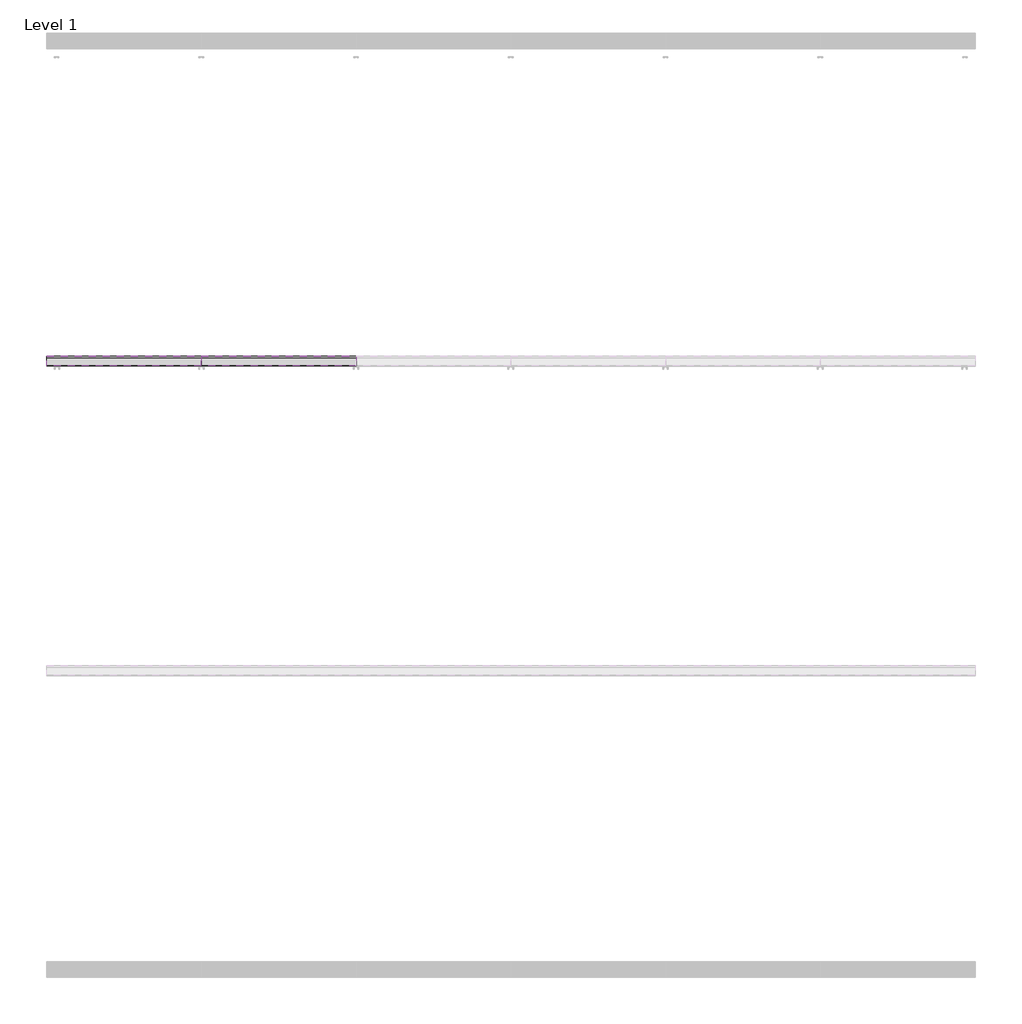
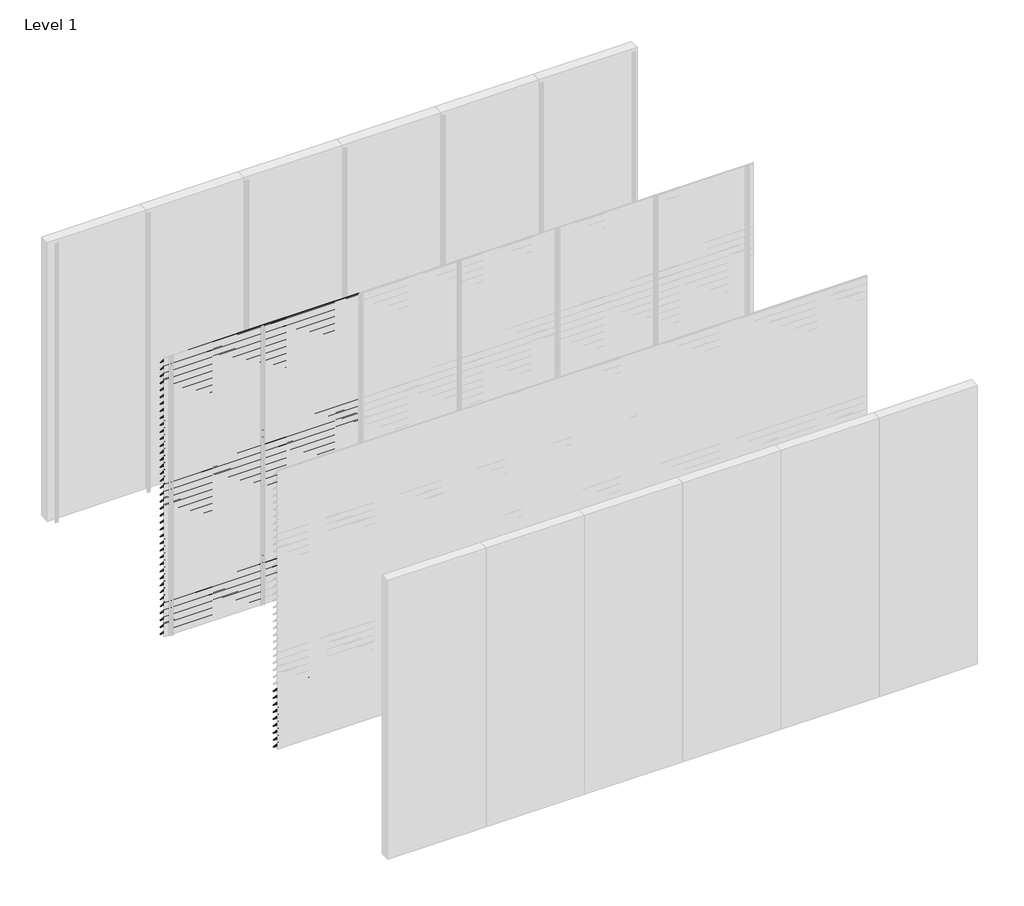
# One storey, part 30 of 35: 86 proxies.
"""IFC4 building model written with IfcOpenShell, lengths in millimetres."""

from ifc_helpers import new_model, si_unit, frame, origin, place, context, project, spatial, polyline, outline, extrude, element, save

model = new_model("IFC4")

# Units and contexts
model_context = context("Model", 3, world=origin())
ifc_project = project(units=[si_unit("LENGTHUNIT", "METRE", prefix="MILLI")], contexts=[model_context])

# Site, building, storey
site = spatial("IfcSite", under=ifc_project)
building = spatial("IfcBuilding", under=site)
storey = spatial("IfcBuildingStorey", under=building, Name="Level 1", Elevation=0.0)

# Proxies
placement = place(None, origin())
element("IfcBuildingElementProxy", 1, Name="Wall Sweeps", at=placement, inside=storey, context=model_context, shape_type="SweptSolid", body=[
    extrude(outline(polyline([(-5996.5, 3000.0), (-5996.5, 2985.5463701), (-5934.5, 2913.9330051), (-5934.5, 2910.4), (-5936.0, 2910.4), (-5936.0, 2913.3738975), (-5998.0, 2984.9872626), (-5998.0, 3000.0), (-5996.5, 3000.0)])), frame((0.0, 0.0, 0.0), z_axis=(1.0, 0.0, 0.0), x_axis=(0.0, 1.0, 0.0)), (0.0, 0.0, 1.0), 1000.0),
])
element("IfcBuildingElementProxy", 2, Name="Wall Sweeps", at=placement, inside=storey, context=model_context, shape_type="SweptSolid", body=[
    extrude(outline(polyline([(-5996.5, 2925.0), (-5996.5, 2910.5463701), (-5934.5, 2838.9330051), (-5934.5, 2835.4), (-5936.0, 2835.4), (-5936.0, 2838.3738975), (-5998.0, 2909.9872626), (-5998.0, 2925.0), (-5996.5, 2925.0)])), frame((0.0, 0.0, 0.0), z_axis=(1.0, 0.0, 0.0), x_axis=(0.0, 1.0, 0.0)), (0.0, 0.0, 1.0), 1000.0),
])
element("IfcBuildingElementProxy", 3, Name="Wall Sweeps", at=placement, inside=storey, context=model_context, shape_type="SweptSolid", body=[
    extrude(outline(polyline([(-5996.5, 2850.0), (-5996.5, 2835.5463701), (-5934.5, 2763.9330051), (-5934.5, 2760.4), (-5936.0, 2760.4), (-5936.0, 2763.3738975), (-5998.0, 2834.9872626), (-5998.0, 2850.0), (-5996.5, 2850.0)])), frame((0.0, 0.0, 0.0), z_axis=(1.0, 0.0, 0.0), x_axis=(0.0, 1.0, 0.0)), (0.0, 0.0, 1.0), 1000.0),
])
element("IfcBuildingElementProxy", 4, Name="Wall Sweeps", at=placement, inside=storey, context=model_context, shape_type="SweptSolid", body=[
    extrude(outline(polyline([(-5996.5, 2775.0), (-5996.5, 2760.5463701), (-5934.5, 2688.9330051), (-5934.5, 2685.4), (-5936.0, 2685.4), (-5936.0, 2688.3738975), (-5998.0, 2759.9872626), (-5998.0, 2775.0), (-5996.5, 2775.0)])), frame((0.0, 0.0, 0.0), z_axis=(1.0, 0.0, 0.0), x_axis=(0.0, 1.0, 0.0)), (0.0, 0.0, 1.0), 1000.0),
])
element("IfcBuildingElementProxy", 5, Name="Wall Sweeps", at=placement, inside=storey, context=model_context, shape_type="SweptSolid", body=[
    extrude(outline(polyline([(-5996.5, 2700.0), (-5996.5, 2685.5463701), (-5934.5, 2613.9330051), (-5934.5, 2610.4), (-5936.0, 2610.4), (-5936.0, 2613.3738975), (-5998.0, 2684.9872626), (-5998.0, 2700.0), (-5996.5, 2700.0)])), frame((0.0, 0.0, 0.0), z_axis=(1.0, 0.0, 0.0), x_axis=(0.0, 1.0, 0.0)), (0.0, 0.0, 1.0), 1000.0),
])
element("IfcBuildingElementProxy", 6, Name="Wall Sweeps", at=placement, inside=storey, context=model_context, shape_type="SweptSolid", body=[
    extrude(outline(polyline([(-5996.5, 2625.0), (-5996.5, 2610.5463701), (-5934.5, 2538.9330051), (-5934.5, 2535.4), (-5936.0, 2535.4), (-5936.0, 2538.3738975), (-5998.0, 2609.9872626), (-5998.0, 2625.0), (-5996.5, 2625.0)])), frame((0.0, 0.0, 0.0), z_axis=(1.0, 0.0, 0.0), x_axis=(0.0, 1.0, 0.0)), (0.0, 0.0, 1.0), 1000.0),
])
element("IfcBuildingElementProxy", 7, Name="Wall Sweeps", at=placement, inside=storey, context=model_context, shape_type="SweptSolid", body=[
    extrude(outline(polyline([(-5996.5, 2550.0), (-5996.5, 2535.5463701), (-5934.5, 2463.9330051), (-5934.5, 2460.4), (-5936.0, 2460.4), (-5936.0, 2463.3738975), (-5998.0, 2534.9872626), (-5998.0, 2550.0), (-5996.5, 2550.0)])), frame((0.0, 0.0, 0.0), z_axis=(1.0, 0.0, 0.0), x_axis=(0.0, 1.0, 0.0)), (0.0, 0.0, 1.0), 1000.0),
])
element("IfcBuildingElementProxy", 8, Name="Wall Sweeps", at=placement, inside=storey, context=model_context, shape_type="SweptSolid", body=[
    extrude(outline(polyline([(-5996.5, 2475.0), (-5996.5, 2460.5463701), (-5934.5, 2388.9330051), (-5934.5, 2385.4), (-5936.0, 2385.4), (-5936.0, 2388.3738975), (-5998.0, 2459.9872626), (-5998.0, 2475.0), (-5996.5, 2475.0)])), frame((0.0, 0.0, 0.0), z_axis=(1.0, 0.0, 0.0), x_axis=(0.0, 1.0, 0.0)), (0.0, 0.0, 1.0), 1000.0),
])
element("IfcBuildingElementProxy", 9, Name="Wall Sweeps", at=placement, inside=storey, context=model_context, shape_type="SweptSolid", body=[
    extrude(outline(polyline([(-5996.5, 2400.0), (-5996.5, 2385.5463701), (-5934.5, 2313.9330051), (-5934.5, 2310.4), (-5936.0, 2310.4), (-5936.0, 2313.3738975), (-5998.0, 2384.9872626), (-5998.0, 2400.0), (-5996.5, 2400.0)])), frame((0.0, 0.0, 0.0), z_axis=(1.0, 0.0, 0.0), x_axis=(0.0, 1.0, 0.0)), (0.0, 0.0, 1.0), 1000.0),
])
element("IfcBuildingElementProxy", 10, Name="Wall Sweeps", at=placement, inside=storey, context=model_context, shape_type="SweptSolid", body=[
    extrude(outline(polyline([(-5996.5, 2325.0), (-5996.5, 2310.5463701), (-5934.5, 2238.9330051), (-5934.5, 2235.4), (-5936.0, 2235.4), (-5936.0, 2238.3738975), (-5998.0, 2309.9872626), (-5998.0, 2325.0), (-5996.5, 2325.0)])), frame((0.0, 0.0, 0.0), z_axis=(1.0, 0.0, 0.0), x_axis=(0.0, 1.0, 0.0)), (0.0, 0.0, 1.0), 1000.0),
])
element("IfcBuildingElementProxy", 11, Name="Wall Sweeps", at=placement, inside=storey, context=model_context, shape_type="SweptSolid", body=[
    extrude(outline(polyline([(-5996.5, 2250.0), (-5996.5, 2235.5463701), (-5934.5, 2163.9330051), (-5934.5, 2160.4), (-5936.0, 2160.4), (-5936.0, 2163.3738975), (-5998.0, 2234.9872626), (-5998.0, 2250.0), (-5996.5, 2250.0)])), frame((0.0, 0.0, 0.0), z_axis=(1.0, 0.0, 0.0), x_axis=(0.0, 1.0, 0.0)), (0.0, 0.0, 1.0), 1000.0),
])
element("IfcBuildingElementProxy", 12, Name="Wall Sweeps", at=placement, inside=storey, context=model_context, shape_type="SweptSolid", body=[
    extrude(outline(polyline([(-5996.5, 2175.0), (-5996.5, 2160.5463701), (-5934.5, 2088.9330051), (-5934.5, 2085.4), (-5936.0, 2085.4), (-5936.0, 2088.3738975), (-5998.0, 2159.9872626), (-5998.0, 2175.0), (-5996.5, 2175.0)])), frame((0.0, 0.0, 0.0), z_axis=(1.0, 0.0, 0.0), x_axis=(0.0, 1.0, 0.0)), (0.0, 0.0, 1.0), 1000.0),
])
element("IfcBuildingElementProxy", 13, Name="Wall Sweeps", at=placement, inside=storey, context=model_context, shape_type="SweptSolid", body=[
    extrude(outline(polyline([(-5996.5, 2100.0), (-5996.5, 2085.5463701), (-5934.5, 2013.9330051), (-5934.5, 2010.4), (-5936.0, 2010.4), (-5936.0, 2013.3738975), (-5998.0, 2084.9872626), (-5998.0, 2100.0), (-5996.5, 2100.0)])), frame((0.0, 0.0, 0.0), z_axis=(1.0, 0.0, 0.0), x_axis=(0.0, 1.0, 0.0)), (0.0, 0.0, 1.0), 1000.0),
])
element("IfcBuildingElementProxy", 14, Name="Wall Sweeps", at=placement, inside=storey, context=model_context, shape_type="SweptSolid", body=[
    extrude(outline(polyline([(-5996.5, 2025.0), (-5996.5, 2010.5463701), (-5934.5, 1938.9330051), (-5934.5, 1935.4), (-5936.0, 1935.4), (-5936.0, 1938.3738975), (-5998.0, 2009.9872626), (-5998.0, 2025.0), (-5996.5, 2025.0)])), frame((0.0, 0.0, 0.0), z_axis=(1.0, 0.0, 0.0), x_axis=(0.0, 1.0, 0.0)), (0.0, 0.0, 1.0), 1000.0),
])
element("IfcBuildingElementProxy", 15, Name="Wall Sweeps", at=placement, inside=storey, context=model_context, shape_type="SweptSolid", body=[
    extrude(outline(polyline([(-5996.5, 1950.0), (-5996.5, 1935.5463701), (-5934.5, 1863.9330051), (-5934.5, 1860.4), (-5936.0, 1860.4), (-5936.0, 1863.3738975), (-5998.0, 1934.9872626), (-5998.0, 1950.0), (-5996.5, 1950.0)])), frame((0.0, 0.0, 0.0), z_axis=(1.0, 0.0, 0.0), x_axis=(0.0, 1.0, 0.0)), (0.0, 0.0, 1.0), 1000.0),
])
element("IfcBuildingElementProxy", 16, Name="Wall Sweeps", at=placement, inside=storey, context=model_context, shape_type="SweptSolid", body=[
    extrude(outline(polyline([(-5996.5, 1875.0), (-5996.5, 1860.5463701), (-5934.5, 1788.9330051), (-5934.5, 1785.4), (-5936.0, 1785.4), (-5936.0, 1788.3738975), (-5998.0, 1859.9872626), (-5998.0, 1875.0), (-5996.5, 1875.0)])), frame((0.0, 0.0, 0.0), z_axis=(1.0, 0.0, 0.0), x_axis=(0.0, 1.0, 0.0)), (0.0, 0.0, 1.0), 1000.0),
])
element("IfcBuildingElementProxy", 17, Name="Wall Sweeps", at=placement, inside=storey, context=model_context, shape_type="SweptSolid", body=[
    extrude(outline(polyline([(-5996.5, 1800.0), (-5996.5, 1785.5463701), (-5934.5, 1713.9330051), (-5934.5, 1710.4), (-5936.0, 1710.4), (-5936.0, 1713.3738975), (-5998.0, 1784.9872626), (-5998.0, 1800.0), (-5996.5, 1800.0)])), frame((0.0, 0.0, 0.0), z_axis=(1.0, 0.0, 0.0), x_axis=(0.0, 1.0, 0.0)), (0.0, 0.0, 1.0), 1000.0),
])
element("IfcBuildingElementProxy", 18, Name="Wall Sweeps", at=placement, inside=storey, context=model_context, shape_type="SweptSolid", body=[
    extrude(outline(polyline([(-5996.5, 1725.0), (-5996.5, 1710.5463701), (-5934.5, 1638.9330051), (-5934.5, 1635.4), (-5936.0, 1635.4), (-5936.0, 1638.3738975), (-5998.0, 1709.9872626), (-5998.0, 1725.0), (-5996.5, 1725.0)])), frame((0.0, 0.0, 0.0), z_axis=(1.0, 0.0, 0.0), x_axis=(0.0, 1.0, 0.0)), (0.0, 0.0, 1.0), 1000.0),
])
element("IfcBuildingElementProxy", 19, Name="Wall Sweeps", at=placement, inside=storey, context=model_context, shape_type="SweptSolid", body=[
    extrude(outline(polyline([(-5996.5, 1650.0), (-5996.5, 1635.5463701), (-5934.5, 1563.9330051), (-5934.5, 1560.4), (-5936.0, 1560.4), (-5936.0, 1563.3738975), (-5998.0, 1634.9872626), (-5998.0, 1650.0), (-5996.5, 1650.0)])), frame((0.0, 0.0, 0.0), z_axis=(1.0, 0.0, 0.0), x_axis=(0.0, 1.0, 0.0)), (0.0, 0.0, 1.0), 1000.0),
])
element("IfcBuildingElementProxy", 20, Name="Wall Sweeps", at=placement, inside=storey, context=model_context, shape_type="SweptSolid", body=[
    extrude(outline(polyline([(-5996.5, 1575.0), (-5996.5, 1560.5463701), (-5934.5, 1488.9330051), (-5934.5, 1485.4), (-5936.0, 1485.4), (-5936.0, 1488.3738975), (-5998.0, 1559.9872626), (-5998.0, 1575.0), (-5996.5, 1575.0)])), frame((0.0, 0.0, 0.0), z_axis=(1.0, 0.0, 0.0), x_axis=(0.0, 1.0, 0.0)), (0.0, 0.0, 1.0), 1000.0),
])
element("IfcBuildingElementProxy", 21, Name="Wall Sweeps", at=placement, inside=storey, context=model_context, shape_type="SweptSolid", body=[
    extrude(outline(polyline([(-5996.5, 1500.0), (-5996.5, 1485.5463701), (-5934.5, 1413.9330051), (-5934.5, 1410.4), (-5936.0, 1410.4), (-5936.0, 1413.3738975), (-5998.0, 1484.9872626), (-5998.0, 1500.0), (-5996.5, 1500.0)])), frame((0.0, 0.0, 0.0), z_axis=(1.0, 0.0, 0.0), x_axis=(0.0, 1.0, 0.0)), (0.0, 0.0, 1.0), 1000.0),
])
element("IfcBuildingElementProxy", 22, Name="Wall Sweeps", at=placement, inside=storey, context=model_context, shape_type="SweptSolid", body=[
    extrude(outline(polyline([(-5996.5, 1425.0), (-5996.5, 1410.5463701), (-5934.5, 1338.9330051), (-5934.5, 1335.4), (-5936.0, 1335.4), (-5936.0, 1338.3738975), (-5998.0, 1409.9872626), (-5998.0, 1425.0), (-5996.5, 1425.0)])), frame((0.0, 0.0, 0.0), z_axis=(1.0, 0.0, 0.0), x_axis=(0.0, 1.0, 0.0)), (0.0, 0.0, 1.0), 1000.0),
])
element("IfcBuildingElementProxy", 23, Name="Wall Sweeps", at=placement, inside=storey, context=model_context, shape_type="SweptSolid", body=[
    extrude(outline(polyline([(-5996.5, 1350.0), (-5996.5, 1335.5463701), (-5934.5, 1263.9330051), (-5934.5, 1260.4), (-5936.0, 1260.4), (-5936.0, 1263.3738975), (-5998.0, 1334.9872626), (-5998.0, 1350.0), (-5996.5, 1350.0)])), frame((0.0, 0.0, 0.0), z_axis=(1.0, 0.0, 0.0), x_axis=(0.0, 1.0, 0.0)), (0.0, 0.0, 1.0), 1000.0),
])
element("IfcBuildingElementProxy", 24, Name="Wall Sweeps", at=placement, inside=storey, context=model_context, shape_type="SweptSolid", body=[
    extrude(outline(polyline([(-5996.5, 1275.0), (-5996.5, 1260.5463701), (-5934.5, 1188.9330051), (-5934.5, 1185.4), (-5936.0, 1185.4), (-5936.0, 1188.3738975), (-5998.0, 1259.9872626), (-5998.0, 1275.0), (-5996.5, 1275.0)])), frame((0.0, 0.0, 0.0), z_axis=(1.0, 0.0, 0.0), x_axis=(0.0, 1.0, 0.0)), (0.0, 0.0, 1.0), 1000.0),
])
element("IfcBuildingElementProxy", 25, Name="Wall Sweeps", at=placement, inside=storey, context=model_context, shape_type="SweptSolid", body=[
    extrude(outline(polyline([(-5996.5, 1200.0), (-5996.5, 1185.5463701), (-5934.5, 1113.9330051), (-5934.5, 1110.4), (-5936.0, 1110.4), (-5936.0, 1113.3738975), (-5998.0, 1184.9872626), (-5998.0, 1200.0), (-5996.5, 1200.0)])), frame((0.0, 0.0, 0.0), z_axis=(1.0, 0.0, 0.0), x_axis=(0.0, 1.0, 0.0)), (0.0, 0.0, 1.0), 1000.0),
])
element("IfcBuildingElementProxy", 26, Name="Wall Sweeps", at=placement, inside=storey, context=model_context, shape_type="SweptSolid", body=[
    extrude(outline(polyline([(-5996.5, 1125.0), (-5996.5, 1110.5463701), (-5934.5, 1038.9330051), (-5934.5, 1035.4), (-5936.0, 1035.4), (-5936.0, 1038.3738975), (-5998.0, 1109.9872626), (-5998.0, 1125.0), (-5996.5, 1125.0)])), frame((0.0, 0.0, 0.0), z_axis=(1.0, 0.0, 0.0), x_axis=(0.0, 1.0, 0.0)), (0.0, 0.0, 1.0), 1000.0),
])
element("IfcBuildingElementProxy", 27, Name="Wall Sweeps", at=placement, inside=storey, context=model_context, shape_type="SweptSolid", body=[
    extrude(outline(polyline([(-5996.5, 1050.0), (-5996.5, 1035.5463701), (-5934.5, 963.9330051), (-5934.5, 960.4), (-5936.0, 960.4), (-5936.0, 963.3738975), (-5998.0, 1034.9872626), (-5998.0, 1050.0), (-5996.5, 1050.0)])), frame((0.0, 0.0, 0.0), z_axis=(1.0, 0.0, 0.0), x_axis=(0.0, 1.0, 0.0)), (0.0, 0.0, 1.0), 1000.0),
])
element("IfcBuildingElementProxy", 28, Name="Wall Sweeps", at=placement, inside=storey, context=model_context, shape_type="SweptSolid", body=[
    extrude(outline(polyline([(-5996.5, 975.0), (-5996.5, 960.5463701), (-5934.5, 888.9330051), (-5934.5, 885.4), (-5936.0, 885.4), (-5936.0, 888.3738975), (-5998.0, 959.9872626), (-5998.0, 975.0), (-5996.5, 975.0)])), frame((0.0, 0.0, 0.0), z_axis=(1.0, 0.0, 0.0), x_axis=(0.0, 1.0, 0.0)), (0.0, 0.0, 1.0), 1000.0),
])
element("IfcBuildingElementProxy", 29, Name="Wall Sweeps", at=placement, inside=storey, context=model_context, shape_type="SweptSolid", body=[
    extrude(outline(polyline([(-5996.5, 900.0), (-5996.5, 885.5463701), (-5934.5, 813.9330051), (-5934.5, 810.4), (-5936.0, 810.4), (-5936.0, 813.3738975), (-5998.0, 884.9872626), (-5998.0, 900.0), (-5996.5, 900.0)])), frame((0.0, 0.0, 0.0), z_axis=(1.0, 0.0, 0.0), x_axis=(0.0, 1.0, 0.0)), (0.0, 0.0, 1.0), 1000.0),
])
element("IfcBuildingElementProxy", 30, Name="Wall Sweeps", at=placement, inside=storey, context=model_context, shape_type="SweptSolid", body=[
    extrude(outline(polyline([(-5996.5, 825.0), (-5996.5, 810.5463701), (-5934.5, 738.9330051), (-5934.5, 735.4), (-5936.0, 735.4), (-5936.0, 738.3738975), (-5998.0, 809.9872626), (-5998.0, 825.0), (-5996.5, 825.0)])), frame((0.0, 0.0, 0.0), z_axis=(1.0, 0.0, 0.0), x_axis=(0.0, 1.0, 0.0)), (0.0, 0.0, 1.0), 1000.0),
])
element("IfcBuildingElementProxy", 31, Name="Wall Sweeps", at=placement, inside=storey, context=model_context, shape_type="SweptSolid", body=[
    extrude(outline(polyline([(-5996.5, 750.0), (-5996.5, 735.5463701), (-5934.5, 663.9330051), (-5934.5, 660.4), (-5936.0, 660.4), (-5936.0, 663.3738975), (-5998.0, 734.9872626), (-5998.0, 750.0), (-5996.5, 750.0)])), frame((0.0, 0.0, 0.0), z_axis=(1.0, 0.0, 0.0), x_axis=(0.0, 1.0, 0.0)), (0.0, 0.0, 1.0), 1000.0),
])
element("IfcBuildingElementProxy", 32, Name="Wall Sweeps", at=placement, inside=storey, context=model_context, shape_type="SweptSolid", body=[
    extrude(outline(polyline([(-5996.5, 675.0), (-5996.5, 660.5463701), (-5934.5, 588.9330051), (-5934.5, 585.4), (-5936.0, 585.4), (-5936.0, 588.3738975), (-5998.0, 659.9872626), (-5998.0, 675.0), (-5996.5, 675.0)])), frame((0.0, 0.0, 0.0), z_axis=(1.0, 0.0, 0.0), x_axis=(0.0, 1.0, 0.0)), (0.0, 0.0, 1.0), 1000.0),
])
element("IfcBuildingElementProxy", 33, Name="Wall Sweeps", at=placement, inside=storey, context=model_context, shape_type="SweptSolid", body=[
    extrude(outline(polyline([(-5996.5, 600.0), (-5996.5, 585.5463701), (-5934.5, 513.9330051), (-5934.5, 510.4), (-5936.0, 510.4), (-5936.0, 513.3738975), (-5998.0, 584.9872626), (-5998.0, 600.0), (-5996.5, 600.0)])), frame((0.0, 0.0, 0.0), z_axis=(1.0, 0.0, 0.0), x_axis=(0.0, 1.0, 0.0)), (0.0, 0.0, 1.0), 1000.0),
])
element("IfcBuildingElementProxy", 34, Name="Wall Sweeps", at=placement, inside=storey, context=model_context, shape_type="SweptSolid", body=[
    extrude(outline(polyline([(-5996.5, 525.0), (-5996.5, 510.5463701), (-5934.5, 438.9330051), (-5934.5, 435.4), (-5936.0, 435.4), (-5936.0, 438.3738975), (-5998.0, 509.9872626), (-5998.0, 525.0), (-5996.5, 525.0)])), frame((0.0, 0.0, 0.0), z_axis=(1.0, 0.0, 0.0), x_axis=(0.0, 1.0, 0.0)), (0.0, 0.0, 1.0), 1000.0),
])
element("IfcBuildingElementProxy", 35, Name="Wall Sweeps", at=placement, inside=storey, context=model_context, shape_type="SweptSolid", body=[
    extrude(outline(polyline([(-5996.5, 450.0), (-5996.5, 435.5463701), (-5934.5, 363.9330051), (-5934.5, 360.4), (-5936.0, 360.4), (-5936.0, 363.3738975), (-5998.0, 434.9872626), (-5998.0, 450.0), (-5996.5, 450.0)])), frame((0.0, 0.0, 0.0), z_axis=(1.0, 0.0, 0.0), x_axis=(0.0, 1.0, 0.0)), (0.0, 0.0, 1.0), 1000.0),
])
element("IfcBuildingElementProxy", 36, Name="Wall Sweeps", at=placement, inside=storey, context=model_context, shape_type="SweptSolid", body=[
    extrude(outline(polyline([(-5996.5, 375.0), (-5996.5, 360.5463701), (-5934.5, 288.9330051), (-5934.5, 285.4), (-5936.0, 285.4), (-5936.0, 288.3738975), (-5998.0, 359.9872626), (-5998.0, 375.0), (-5996.5, 375.0)])), frame((0.0, 0.0, 0.0), z_axis=(1.0, 0.0, 0.0), x_axis=(0.0, 1.0, 0.0)), (0.0, 0.0, 1.0), 1000.0),
])
element("IfcBuildingElementProxy", 37, Name="Wall Sweeps", at=placement, inside=storey, context=model_context, shape_type="SweptSolid", body=[
    extrude(outline(polyline([(-5996.5, 300.0), (-5996.5, 285.5463701), (-5934.5, 213.9330051), (-5934.5, 210.4), (-5936.0, 210.4), (-5936.0, 213.3738975), (-5998.0, 284.9872626), (-5998.0, 300.0), (-5996.5, 300.0)])), frame((0.0, 0.0, 0.0), z_axis=(1.0, 0.0, 0.0), x_axis=(0.0, 1.0, 0.0)), (0.0, 0.0, 1.0), 1000.0),
])
element("IfcBuildingElementProxy", 38, Name="Wall Sweeps", at=placement, inside=storey, context=model_context, shape_type="SweptSolid", body=[
    extrude(outline(polyline([(-5996.5, 225.0), (-5996.5, 210.5463701), (-5934.5, 138.9330051), (-5934.5, 135.4), (-5936.0, 135.4), (-5936.0, 138.3738975), (-5998.0, 209.9872626), (-5998.0, 225.0), (-5996.5, 225.0)])), frame((0.0, 0.0, 0.0), z_axis=(1.0, 0.0, 0.0), x_axis=(0.0, 1.0, 0.0)), (0.0, 0.0, 1.0), 1000.0),
])
element("IfcBuildingElementProxy", 39, Name="Wall Sweeps", at=placement, inside=storey, context=model_context, shape_type="SweptSolid", body=[
    extrude(outline(polyline([(-5996.5, 150.0), (-5996.5, 135.5463701), (-5934.5, 63.9330051), (-5934.5, 60.4), (-5936.0, 60.4), (-5936.0, 63.3738975), (-5998.0, 134.9872626), (-5998.0, 150.0), (-5996.5, 150.0)])), frame((0.0, 0.0, 0.0), z_axis=(1.0, 0.0, 0.0), x_axis=(0.0, 1.0, 0.0)), (0.0, 0.0, 1.0), 1000.0),
])
element("IfcBuildingElementProxy", 40, Name="Wall Sweeps", at=placement, inside=storey, context=model_context, shape_type="SweptSolid", body=[
    extrude(outline(polyline([(-5996.5, 75.0), (-5996.5, 60.5463701), (-5934.5, -11.0669949), (-5934.5, -14.6), (-5936.0, -14.6), (-5936.0, -11.6261025), (-5998.0, 59.9872626), (-5998.0, 75.0), (-5996.5, 75.0)])), frame((0.0, 0.0, 0.0), z_axis=(1.0, 0.0, 0.0), x_axis=(0.0, 1.0, 0.0)), (0.0, 0.0, 1.0), 1000.0),
])
element("IfcBuildingElementProxy", 41, Name="Wall Sweeps", at=placement, inside=storey, context=model_context, shape_type="SweptSolid", body=[
    extrude(outline(polyline([(-5996.5, 3000.0), (-5996.5, 2985.5463701), (-5934.5, 2913.9330051), (-5934.5, 2910.4), (-5936.0, 2910.4), (-5936.0, 2913.3738975), (-5998.0, 2984.9872626), (-5998.0, 3000.0), (-5996.5, 3000.0)])), frame((1000.0, 0.0, 0.0), z_axis=(1.0, 0.0, 0.0), x_axis=(0.0, 1.0, 0.0)), (0.0, 0.0, 1.0), 1000.0),
])
element("IfcBuildingElementProxy", 42, Name="Wall Sweeps", at=placement, inside=storey, context=model_context, shape_type="SweptSolid", body=[
    extrude(outline(polyline([(-5996.5, 2925.0), (-5996.5, 2910.5463701), (-5934.5, 2838.9330051), (-5934.5, 2835.4), (-5936.0, 2835.4), (-5936.0, 2838.3738975), (-5998.0, 2909.9872626), (-5998.0, 2925.0), (-5996.5, 2925.0)])), frame((1000.0, 0.0, 0.0), z_axis=(1.0, 0.0, 0.0), x_axis=(0.0, 1.0, 0.0)), (0.0, 0.0, 1.0), 1000.0),
])
element("IfcBuildingElementProxy", 43, Name="Wall Sweeps", at=placement, inside=storey, context=model_context, shape_type="SweptSolid", body=[
    extrude(outline(polyline([(-5996.5, 2850.0), (-5996.5, 2835.5463701), (-5934.5, 2763.9330051), (-5934.5, 2760.4), (-5936.0, 2760.4), (-5936.0, 2763.3738975), (-5998.0, 2834.9872626), (-5998.0, 2850.0), (-5996.5, 2850.0)])), frame((1000.0, 0.0, 0.0), z_axis=(1.0, 0.0, 0.0), x_axis=(0.0, 1.0, 0.0)), (0.0, 0.0, 1.0), 1000.0),
])
element("IfcBuildingElementProxy", 44, Name="Wall Sweeps", at=placement, inside=storey, context=model_context, shape_type="SweptSolid", body=[
    extrude(outline(polyline([(-5996.5, 2775.0), (-5996.5, 2760.5463701), (-5934.5, 2688.9330051), (-5934.5, 2685.4), (-5936.0, 2685.4), (-5936.0, 2688.3738975), (-5998.0, 2759.9872626), (-5998.0, 2775.0), (-5996.5, 2775.0)])), frame((1000.0, 0.0, 0.0), z_axis=(1.0, 0.0, 0.0), x_axis=(0.0, 1.0, 0.0)), (0.0, 0.0, 1.0), 1000.0),
])
element("IfcBuildingElementProxy", 45, Name="Wall Sweeps", at=placement, inside=storey, context=model_context, shape_type="SweptSolid", body=[
    extrude(outline(polyline([(-5996.5, 2700.0), (-5996.5, 2685.5463701), (-5934.5, 2613.9330051), (-5934.5, 2610.4), (-5936.0, 2610.4), (-5936.0, 2613.3738975), (-5998.0, 2684.9872626), (-5998.0, 2700.0), (-5996.5, 2700.0)])), frame((1000.0, 0.0, 0.0), z_axis=(1.0, 0.0, 0.0), x_axis=(0.0, 1.0, 0.0)), (0.0, 0.0, 1.0), 1000.0),
])
element("IfcBuildingElementProxy", 46, Name="Wall Sweeps", at=placement, inside=storey, context=model_context, shape_type="SweptSolid", body=[
    extrude(outline(polyline([(-5996.5, 2625.0), (-5996.5, 2610.5463701), (-5934.5, 2538.9330051), (-5934.5, 2535.4), (-5936.0, 2535.4), (-5936.0, 2538.3738975), (-5998.0, 2609.9872626), (-5998.0, 2625.0), (-5996.5, 2625.0)])), frame((1000.0, 0.0, 0.0), z_axis=(1.0, 0.0, 0.0), x_axis=(0.0, 1.0, 0.0)), (0.0, 0.0, 1.0), 1000.0),
])
element("IfcBuildingElementProxy", 47, Name="Wall Sweeps", at=placement, inside=storey, context=model_context, shape_type="SweptSolid", body=[
    extrude(outline(polyline([(-5996.5, 2550.0), (-5996.5, 2535.5463701), (-5934.5, 2463.9330051), (-5934.5, 2460.4), (-5936.0, 2460.4), (-5936.0, 2463.3738975), (-5998.0, 2534.9872626), (-5998.0, 2550.0), (-5996.5, 2550.0)])), frame((1000.0, 0.0, 0.0), z_axis=(1.0, 0.0, 0.0), x_axis=(0.0, 1.0, 0.0)), (0.0, 0.0, 1.0), 1000.0),
])
element("IfcBuildingElementProxy", 48, Name="Wall Sweeps", at=placement, inside=storey, context=model_context, shape_type="SweptSolid", body=[
    extrude(outline(polyline([(-5996.5, 2475.0), (-5996.5, 2460.5463701), (-5934.5, 2388.9330051), (-5934.5, 2385.4), (-5936.0, 2385.4), (-5936.0, 2388.3738975), (-5998.0, 2459.9872626), (-5998.0, 2475.0), (-5996.5, 2475.0)])), frame((1000.0, 0.0, 0.0), z_axis=(1.0, 0.0, 0.0), x_axis=(0.0, 1.0, 0.0)), (0.0, 0.0, 1.0), 1000.0),
])
element("IfcBuildingElementProxy", 49, Name="Wall Sweeps", at=placement, inside=storey, context=model_context, shape_type="SweptSolid", body=[
    extrude(outline(polyline([(-5996.5, 2400.0), (-5996.5, 2385.5463701), (-5934.5, 2313.9330051), (-5934.5, 2310.4), (-5936.0, 2310.4), (-5936.0, 2313.3738975), (-5998.0, 2384.9872626), (-5998.0, 2400.0), (-5996.5, 2400.0)])), frame((1000.0, 0.0, 0.0), z_axis=(1.0, 0.0, 0.0), x_axis=(0.0, 1.0, 0.0)), (0.0, 0.0, 1.0), 1000.0),
])
element("IfcBuildingElementProxy", 50, Name="Wall Sweeps", at=placement, inside=storey, context=model_context, shape_type="SweptSolid", body=[
    extrude(outline(polyline([(-5996.5, 2325.0), (-5996.5, 2310.5463701), (-5934.5, 2238.9330051), (-5934.5, 2235.4), (-5936.0, 2235.4), (-5936.0, 2238.3738975), (-5998.0, 2309.9872626), (-5998.0, 2325.0), (-5996.5, 2325.0)])), frame((1000.0, 0.0, 0.0), z_axis=(1.0, 0.0, 0.0), x_axis=(0.0, 1.0, 0.0)), (0.0, 0.0, 1.0), 1000.0),
])
element("IfcBuildingElementProxy", 51, Name="Wall Sweeps", at=placement, inside=storey, context=model_context, shape_type="SweptSolid", body=[
    extrude(outline(polyline([(-5996.5, 2250.0), (-5996.5, 2235.5463701), (-5934.5, 2163.9330051), (-5934.5, 2160.4), (-5936.0, 2160.4), (-5936.0, 2163.3738975), (-5998.0, 2234.9872626), (-5998.0, 2250.0), (-5996.5, 2250.0)])), frame((1000.0, 0.0, 0.0), z_axis=(1.0, 0.0, 0.0), x_axis=(0.0, 1.0, 0.0)), (0.0, 0.0, 1.0), 1000.0),
])
element("IfcBuildingElementProxy", 52, Name="Wall Sweeps", at=placement, inside=storey, context=model_context, shape_type="SweptSolid", body=[
    extrude(outline(polyline([(-5996.5, 2175.0), (-5996.5, 2160.5463701), (-5934.5, 2088.9330051), (-5934.5, 2085.4), (-5936.0, 2085.4), (-5936.0, 2088.3738975), (-5998.0, 2159.9872626), (-5998.0, 2175.0), (-5996.5, 2175.0)])), frame((1000.0, 0.0, 0.0), z_axis=(1.0, 0.0, 0.0), x_axis=(0.0, 1.0, 0.0)), (0.0, 0.0, 1.0), 1000.0),
])
element("IfcBuildingElementProxy", 53, Name="Wall Sweeps", at=placement, inside=storey, context=model_context, shape_type="SweptSolid", body=[
    extrude(outline(polyline([(-5996.5, 2100.0), (-5996.5, 2085.5463701), (-5934.5, 2013.9330051), (-5934.5, 2010.4), (-5936.0, 2010.4), (-5936.0, 2013.3738975), (-5998.0, 2084.9872626), (-5998.0, 2100.0), (-5996.5, 2100.0)])), frame((1000.0, 0.0, 0.0), z_axis=(1.0, 0.0, 0.0), x_axis=(0.0, 1.0, 0.0)), (0.0, 0.0, 1.0), 1000.0),
])
element("IfcBuildingElementProxy", 54, Name="Wall Sweeps", at=placement, inside=storey, context=model_context, shape_type="SweptSolid", body=[
    extrude(outline(polyline([(-5996.5, 2025.0), (-5996.5, 2010.5463701), (-5934.5, 1938.9330051), (-5934.5, 1935.4), (-5936.0, 1935.4), (-5936.0, 1938.3738975), (-5998.0, 2009.9872626), (-5998.0, 2025.0), (-5996.5, 2025.0)])), frame((1000.0, 0.0, 0.0), z_axis=(1.0, 0.0, 0.0), x_axis=(0.0, 1.0, 0.0)), (0.0, 0.0, 1.0), 1000.0),
])
element("IfcBuildingElementProxy", 55, Name="Wall Sweeps", at=placement, inside=storey, context=model_context, shape_type="SweptSolid", body=[
    extrude(outline(polyline([(-5996.5, 1950.0), (-5996.5, 1935.5463701), (-5934.5, 1863.9330051), (-5934.5, 1860.4), (-5936.0, 1860.4), (-5936.0, 1863.3738975), (-5998.0, 1934.9872626), (-5998.0, 1950.0), (-5996.5, 1950.0)])), frame((1000.0, 0.0, 0.0), z_axis=(1.0, 0.0, 0.0), x_axis=(0.0, 1.0, 0.0)), (0.0, 0.0, 1.0), 1000.0),
])
element("IfcBuildingElementProxy", 56, Name="Wall Sweeps", at=placement, inside=storey, context=model_context, shape_type="SweptSolid", body=[
    extrude(outline(polyline([(-5996.5, 1875.0), (-5996.5, 1860.5463701), (-5934.5, 1788.9330051), (-5934.5, 1785.4), (-5936.0, 1785.4), (-5936.0, 1788.3738975), (-5998.0, 1859.9872626), (-5998.0, 1875.0), (-5996.5, 1875.0)])), frame((1000.0, 0.0, 0.0), z_axis=(1.0, 0.0, 0.0), x_axis=(0.0, 1.0, 0.0)), (0.0, 0.0, 1.0), 1000.0),
])
element("IfcBuildingElementProxy", 57, Name="Wall Sweeps", at=placement, inside=storey, context=model_context, shape_type="SweptSolid", body=[
    extrude(outline(polyline([(-5996.5, 1800.0), (-5996.5, 1785.5463701), (-5934.5, 1713.9330051), (-5934.5, 1710.4), (-5936.0, 1710.4), (-5936.0, 1713.3738975), (-5998.0, 1784.9872626), (-5998.0, 1800.0), (-5996.5, 1800.0)])), frame((1000.0, 0.0, 0.0), z_axis=(1.0, 0.0, 0.0), x_axis=(0.0, 1.0, 0.0)), (0.0, 0.0, 1.0), 1000.0),
])
element("IfcBuildingElementProxy", 58, Name="Wall Sweeps", at=placement, inside=storey, context=model_context, shape_type="SweptSolid", body=[
    extrude(outline(polyline([(-5996.5, 1725.0), (-5996.5, 1710.5463701), (-5934.5, 1638.9330051), (-5934.5, 1635.4), (-5936.0, 1635.4), (-5936.0, 1638.3738975), (-5998.0, 1709.9872626), (-5998.0, 1725.0), (-5996.5, 1725.0)])), frame((1000.0, 0.0, 0.0), z_axis=(1.0, 0.0, 0.0), x_axis=(0.0, 1.0, 0.0)), (0.0, 0.0, 1.0), 1000.0),
])
element("IfcBuildingElementProxy", 59, Name="Wall Sweeps", at=placement, inside=storey, context=model_context, shape_type="SweptSolid", body=[
    extrude(outline(polyline([(-5996.5, 1650.0), (-5996.5, 1635.5463701), (-5934.5, 1563.9330051), (-5934.5, 1560.4), (-5936.0, 1560.4), (-5936.0, 1563.3738975), (-5998.0, 1634.9872626), (-5998.0, 1650.0), (-5996.5, 1650.0)])), frame((1000.0, 0.0, 0.0), z_axis=(1.0, 0.0, 0.0), x_axis=(0.0, 1.0, 0.0)), (0.0, 0.0, 1.0), 1000.0),
])
element("IfcBuildingElementProxy", 60, Name="Wall Sweeps", at=placement, inside=storey, context=model_context, shape_type="SweptSolid", body=[
    extrude(outline(polyline([(-5996.5, 1575.0), (-5996.5, 1560.5463701), (-5934.5, 1488.9330051), (-5934.5, 1485.4), (-5936.0, 1485.4), (-5936.0, 1488.3738975), (-5998.0, 1559.9872626), (-5998.0, 1575.0), (-5996.5, 1575.0)])), frame((1000.0, 0.0, 0.0), z_axis=(1.0, 0.0, 0.0), x_axis=(0.0, 1.0, 0.0)), (0.0, 0.0, 1.0), 1000.0),
])
element("IfcBuildingElementProxy", 61, Name="Wall Sweeps", at=placement, inside=storey, context=model_context, shape_type="SweptSolid", body=[
    extrude(outline(polyline([(-5996.5, 1500.0), (-5996.5, 1485.5463701), (-5934.5, 1413.9330051), (-5934.5, 1410.4), (-5936.0, 1410.4), (-5936.0, 1413.3738975), (-5998.0, 1484.9872626), (-5998.0, 1500.0), (-5996.5, 1500.0)])), frame((1000.0, 0.0, 0.0), z_axis=(1.0, 0.0, 0.0), x_axis=(0.0, 1.0, 0.0)), (0.0, 0.0, 1.0), 1000.0),
])
element("IfcBuildingElementProxy", 62, Name="Wall Sweeps", at=placement, inside=storey, context=model_context, shape_type="SweptSolid", body=[
    extrude(outline(polyline([(-5996.5, 1425.0), (-5996.5, 1410.5463701), (-5934.5, 1338.9330051), (-5934.5, 1335.4), (-5936.0, 1335.4), (-5936.0, 1338.3738975), (-5998.0, 1409.9872626), (-5998.0, 1425.0), (-5996.5, 1425.0)])), frame((1000.0, 0.0, 0.0), z_axis=(1.0, 0.0, 0.0), x_axis=(0.0, 1.0, 0.0)), (0.0, 0.0, 1.0), 1000.0),
])
element("IfcBuildingElementProxy", 63, Name="Wall Sweeps", at=placement, inside=storey, context=model_context, shape_type="SweptSolid", body=[
    extrude(outline(polyline([(-5996.5, 1350.0), (-5996.5, 1335.5463701), (-5934.5, 1263.9330051), (-5934.5, 1260.4), (-5936.0, 1260.4), (-5936.0, 1263.3738975), (-5998.0, 1334.9872626), (-5998.0, 1350.0), (-5996.5, 1350.0)])), frame((1000.0, 0.0, 0.0), z_axis=(1.0, 0.0, 0.0), x_axis=(0.0, 1.0, 0.0)), (0.0, 0.0, 1.0), 1000.0),
])
element("IfcBuildingElementProxy", 64, Name="Wall Sweeps", at=placement, inside=storey, context=model_context, shape_type="SweptSolid", body=[
    extrude(outline(polyline([(-5996.5, 1275.0), (-5996.5, 1260.5463701), (-5934.5, 1188.9330051), (-5934.5, 1185.4), (-5936.0, 1185.4), (-5936.0, 1188.3738975), (-5998.0, 1259.9872626), (-5998.0, 1275.0), (-5996.5, 1275.0)])), frame((1000.0, 0.0, 0.0), z_axis=(1.0, 0.0, 0.0), x_axis=(0.0, 1.0, 0.0)), (0.0, 0.0, 1.0), 1000.0),
])
element("IfcBuildingElementProxy", 65, Name="Wall Sweeps", at=placement, inside=storey, context=model_context, shape_type="SweptSolid", body=[
    extrude(outline(polyline([(-5996.5, 1200.0), (-5996.5, 1185.5463701), (-5934.5, 1113.9330051), (-5934.5, 1110.4), (-5936.0, 1110.4), (-5936.0, 1113.3738975), (-5998.0, 1184.9872626), (-5998.0, 1200.0), (-5996.5, 1200.0)])), frame((1000.0, 0.0, 0.0), z_axis=(1.0, 0.0, 0.0), x_axis=(0.0, 1.0, 0.0)), (0.0, 0.0, 1.0), 1000.0),
])
element("IfcBuildingElementProxy", 66, Name="Wall Sweeps", at=placement, inside=storey, context=model_context, shape_type="SweptSolid", body=[
    extrude(outline(polyline([(-5996.5, 1125.0), (-5996.5, 1110.5463701), (-5934.5, 1038.9330051), (-5934.5, 1035.4), (-5936.0, 1035.4), (-5936.0, 1038.3738975), (-5998.0, 1109.9872626), (-5998.0, 1125.0), (-5996.5, 1125.0)])), frame((1000.0, 0.0, 0.0), z_axis=(1.0, 0.0, 0.0), x_axis=(0.0, 1.0, 0.0)), (0.0, 0.0, 1.0), 1000.0),
])
element("IfcBuildingElementProxy", 67, Name="Wall Sweeps", at=placement, inside=storey, context=model_context, shape_type="SweptSolid", body=[
    extrude(outline(polyline([(-5996.5, 1050.0), (-5996.5, 1035.5463701), (-5934.5, 963.9330051), (-5934.5, 960.4), (-5936.0, 960.4), (-5936.0, 963.3738975), (-5998.0, 1034.9872626), (-5998.0, 1050.0), (-5996.5, 1050.0)])), frame((1000.0, 0.0, 0.0), z_axis=(1.0, 0.0, 0.0), x_axis=(0.0, 1.0, 0.0)), (0.0, 0.0, 1.0), 1000.0),
])
element("IfcBuildingElementProxy", 68, Name="Wall Sweeps", at=placement, inside=storey, context=model_context, shape_type="SweptSolid", body=[
    extrude(outline(polyline([(-5996.5, 975.0), (-5996.5, 960.5463701), (-5934.5, 888.9330051), (-5934.5, 885.4), (-5936.0, 885.4), (-5936.0, 888.3738975), (-5998.0, 959.9872626), (-5998.0, 975.0), (-5996.5, 975.0)])), frame((1000.0, 0.0, 0.0), z_axis=(1.0, 0.0, 0.0), x_axis=(0.0, 1.0, 0.0)), (0.0, 0.0, 1.0), 1000.0),
])
element("IfcBuildingElementProxy", 69, Name="Wall Sweeps", at=placement, inside=storey, context=model_context, shape_type="SweptSolid", body=[
    extrude(outline(polyline([(-5996.5, 900.0), (-5996.5, 885.5463701), (-5934.5, 813.9330051), (-5934.5, 810.4), (-5936.0, 810.4), (-5936.0, 813.3738975), (-5998.0, 884.9872626), (-5998.0, 900.0), (-5996.5, 900.0)])), frame((1000.0, 0.0, 0.0), z_axis=(1.0, 0.0, 0.0), x_axis=(0.0, 1.0, 0.0)), (0.0, 0.0, 1.0), 1000.0),
])
element("IfcBuildingElementProxy", 70, Name="Wall Sweeps", at=placement, inside=storey, context=model_context, shape_type="SweptSolid", body=[
    extrude(outline(polyline([(-5996.5, 825.0), (-5996.5, 810.5463701), (-5934.5, 738.9330051), (-5934.5, 735.4), (-5936.0, 735.4), (-5936.0, 738.3738975), (-5998.0, 809.9872626), (-5998.0, 825.0), (-5996.5, 825.0)])), frame((1000.0, 0.0, 0.0), z_axis=(1.0, 0.0, 0.0), x_axis=(0.0, 1.0, 0.0)), (0.0, 0.0, 1.0), 1000.0),
])
element("IfcBuildingElementProxy", 71, Name="Wall Sweeps", at=placement, inside=storey, context=model_context, shape_type="SweptSolid", body=[
    extrude(outline(polyline([(-5996.5, 750.0), (-5996.5, 735.5463701), (-5934.5, 663.9330051), (-5934.5, 660.4), (-5936.0, 660.4), (-5936.0, 663.3738975), (-5998.0, 734.9872626), (-5998.0, 750.0), (-5996.5, 750.0)])), frame((1000.0, 0.0, 0.0), z_axis=(1.0, 0.0, 0.0), x_axis=(0.0, 1.0, 0.0)), (0.0, 0.0, 1.0), 1000.0),
])
element("IfcBuildingElementProxy", 72, Name="Wall Sweeps", at=placement, inside=storey, context=model_context, shape_type="SweptSolid", body=[
    extrude(outline(polyline([(-5996.5, 675.0), (-5996.5, 660.5463701), (-5934.5, 588.9330051), (-5934.5, 585.4), (-5936.0, 585.4), (-5936.0, 588.3738975), (-5998.0, 659.9872626), (-5998.0, 675.0), (-5996.5, 675.0)])), frame((1000.0, 0.0, 0.0), z_axis=(1.0, 0.0, 0.0), x_axis=(0.0, 1.0, 0.0)), (0.0, 0.0, 1.0), 1000.0),
])
element("IfcBuildingElementProxy", 73, Name="Wall Sweeps", at=placement, inside=storey, context=model_context, shape_type="SweptSolid", body=[
    extrude(outline(polyline([(-5996.5, 600.0), (-5996.5, 585.5463701), (-5934.5, 513.9330051), (-5934.5, 510.4), (-5936.0, 510.4), (-5936.0, 513.3738975), (-5998.0, 584.9872626), (-5998.0, 600.0), (-5996.5, 600.0)])), frame((1000.0, 0.0, 0.0), z_axis=(1.0, 0.0, 0.0), x_axis=(0.0, 1.0, 0.0)), (0.0, 0.0, 1.0), 1000.0),
])
element("IfcBuildingElementProxy", 74, Name="Wall Sweeps", at=placement, inside=storey, context=model_context, shape_type="SweptSolid", body=[
    extrude(outline(polyline([(-5996.5, 525.0), (-5996.5, 510.5463701), (-5934.5, 438.9330051), (-5934.5, 435.4), (-5936.0, 435.4), (-5936.0, 438.3738975), (-5998.0, 509.9872626), (-5998.0, 525.0), (-5996.5, 525.0)])), frame((1000.0, 0.0, 0.0), z_axis=(1.0, 0.0, 0.0), x_axis=(0.0, 1.0, 0.0)), (0.0, 0.0, 1.0), 1000.0),
])
element("IfcBuildingElementProxy", 75, Name="Wall Sweeps", at=placement, inside=storey, context=model_context, shape_type="SweptSolid", body=[
    extrude(outline(polyline([(-5996.5, 450.0), (-5996.5, 435.5463701), (-5934.5, 363.9330051), (-5934.5, 360.4), (-5936.0, 360.4), (-5936.0, 363.3738975), (-5998.0, 434.9872626), (-5998.0, 450.0), (-5996.5, 450.0)])), frame((1000.0, 0.0, 0.0), z_axis=(1.0, 0.0, 0.0), x_axis=(0.0, 1.0, 0.0)), (0.0, 0.0, 1.0), 1000.0),
])
element("IfcBuildingElementProxy", 76, Name="Wall Sweeps", at=placement, inside=storey, context=model_context, shape_type="SweptSolid", body=[
    extrude(outline(polyline([(-5996.5, 375.0), (-5996.5, 360.5463701), (-5934.5, 288.9330051), (-5934.5, 285.4), (-5936.0, 285.4), (-5936.0, 288.3738975), (-5998.0, 359.9872626), (-5998.0, 375.0), (-5996.5, 375.0)])), frame((1000.0, 0.0, 0.0), z_axis=(1.0, 0.0, 0.0), x_axis=(0.0, 1.0, 0.0)), (0.0, 0.0, 1.0), 1000.0),
])
element("IfcBuildingElementProxy", 77, Name="Wall Sweeps", at=placement, inside=storey, context=model_context, shape_type="SweptSolid", body=[
    extrude(outline(polyline([(-5996.5, 300.0), (-5996.5, 285.5463701), (-5934.5, 213.9330051), (-5934.5, 210.4), (-5936.0, 210.4), (-5936.0, 213.3738975), (-5998.0, 284.9872626), (-5998.0, 300.0), (-5996.5, 300.0)])), frame((1000.0, 0.0, 0.0), z_axis=(1.0, 0.0, 0.0), x_axis=(0.0, 1.0, 0.0)), (0.0, 0.0, 1.0), 1000.0),
])
element("IfcBuildingElementProxy", 78, Name="Wall Sweeps", at=placement, inside=storey, context=model_context, shape_type="SweptSolid", body=[
    extrude(outline(polyline([(-7996.5, 675.0), (-7996.5, 660.5463701), (-7934.5, 588.9330051), (-7934.5, 585.4), (-7936.0, 585.4), (-7936.0, 588.3738975), (-7998.0, 659.9872626), (-7998.0, 675.0), (-7996.5, 675.0)])), frame((0.0, 0.0, 0.0), z_axis=(1.0, 0.0, 0.0), x_axis=(0.0, 1.0, 0.0)), (0.0, 0.0, 1.0), 6000.0),
])
element("IfcBuildingElementProxy", 79, Name="Wall Sweeps", at=placement, inside=storey, context=model_context, shape_type="SweptSolid", body=[
    extrude(outline(polyline([(-7996.5, 600.0), (-7996.5, 585.5463701), (-7934.5, 513.9330051), (-7934.5, 510.4), (-7936.0, 510.4), (-7936.0, 513.3738975), (-7998.0, 584.9872626), (-7998.0, 600.0), (-7996.5, 600.0)])), frame((0.0, 0.0, 0.0), z_axis=(1.0, 0.0, 0.0), x_axis=(0.0, 1.0, 0.0)), (0.0, 0.0, 1.0), 6000.0),
])
element("IfcBuildingElementProxy", 80, Name="Wall Sweeps", at=placement, inside=storey, context=model_context, shape_type="SweptSolid", body=[
    extrude(outline(polyline([(-7996.5, 525.0), (-7996.5, 510.5463701), (-7934.5, 438.9330051), (-7934.5, 435.4), (-7936.0, 435.4), (-7936.0, 438.3738975), (-7998.0, 509.9872626), (-7998.0, 525.0), (-7996.5, 525.0)])), frame((0.0, 0.0, 0.0), z_axis=(1.0, 0.0, 0.0), x_axis=(0.0, 1.0, 0.0)), (0.0, 0.0, 1.0), 6000.0),
])
element("IfcBuildingElementProxy", 81, Name="Wall Sweeps", at=placement, inside=storey, context=model_context, shape_type="SweptSolid", body=[
    extrude(outline(polyline([(-7996.5, 450.0), (-7996.5, 435.5463701), (-7934.5, 363.9330051), (-7934.5, 360.4), (-7936.0, 360.4), (-7936.0, 363.3738975), (-7998.0, 434.9872626), (-7998.0, 450.0), (-7996.5, 450.0)])), frame((0.0, 0.0, 0.0), z_axis=(1.0, 0.0, 0.0), x_axis=(0.0, 1.0, 0.0)), (0.0, 0.0, 1.0), 6000.0),
])
element("IfcBuildingElementProxy", 82, Name="Wall Sweeps", at=placement, inside=storey, context=model_context, shape_type="SweptSolid", body=[
    extrude(outline(polyline([(-7996.5, 375.0), (-7996.5, 360.5463701), (-7934.5, 288.9330051), (-7934.5, 285.4), (-7936.0, 285.4), (-7936.0, 288.3738975), (-7998.0, 359.9872626), (-7998.0, 375.0), (-7996.5, 375.0)])), frame((0.0, 0.0, 0.0), z_axis=(1.0, 0.0, 0.0), x_axis=(0.0, 1.0, 0.0)), (0.0, 0.0, 1.0), 6000.0),
])
element("IfcBuildingElementProxy", 83, Name="Wall Sweeps", at=placement, inside=storey, context=model_context, shape_type="SweptSolid", body=[
    extrude(outline(polyline([(-7996.5, 300.0), (-7996.5, 285.5463701), (-7934.5, 213.9330051), (-7934.5, 210.4), (-7936.0, 210.4), (-7936.0, 213.3738975), (-7998.0, 284.9872626), (-7998.0, 300.0), (-7996.5, 300.0)])), frame((0.0, 0.0, 0.0), z_axis=(1.0, 0.0, 0.0), x_axis=(0.0, 1.0, 0.0)), (0.0, 0.0, 1.0), 6000.0),
])
element("IfcBuildingElementProxy", 84, Name="Wall Sweeps", at=placement, inside=storey, context=model_context, shape_type="SweptSolid", body=[
    extrude(outline(polyline([(-7996.5, 225.0), (-7996.5, 210.5463701), (-7934.5, 138.9330051), (-7934.5, 135.4), (-7936.0, 135.4), (-7936.0, 138.3738975), (-7998.0, 209.9872626), (-7998.0, 225.0), (-7996.5, 225.0)])), frame((0.0, 0.0, 0.0), z_axis=(1.0, 0.0, 0.0), x_axis=(0.0, 1.0, 0.0)), (0.0, 0.0, 1.0), 6000.0),
])
element("IfcBuildingElementProxy", 85, Name="Wall Sweeps", at=placement, inside=storey, context=model_context, shape_type="SweptSolid", body=[
    extrude(outline(polyline([(-7996.5, 150.0), (-7996.5, 135.5463701), (-7934.5, 63.9330051), (-7934.5, 60.4), (-7936.0, 60.4), (-7936.0, 63.3738975), (-7998.0, 134.9872626), (-7998.0, 150.0), (-7996.5, 150.0)])), frame((0.0, 0.0, 0.0), z_axis=(1.0, 0.0, 0.0), x_axis=(0.0, 1.0, 0.0)), (0.0, 0.0, 1.0), 6000.0),
])
element("IfcBuildingElementProxy", 86, Name="Wall Sweeps", at=placement, inside=storey, context=model_context, shape_type="SweptSolid", body=[
    extrude(outline(polyline([(-7996.5, 75.0), (-7996.5, 60.5463701), (-7934.5, -11.0669949), (-7934.5, -14.6), (-7936.0, -14.6), (-7936.0, -11.6261025), (-7998.0, 59.9872626), (-7998.0, 75.0), (-7996.5, 75.0)])), frame((0.0, 0.0, 0.0), z_axis=(1.0, 0.0, 0.0), x_axis=(0.0, 1.0, 0.0)), (0.0, 0.0, 1.0), 6000.0),
])

save(model, "model.ifc")
